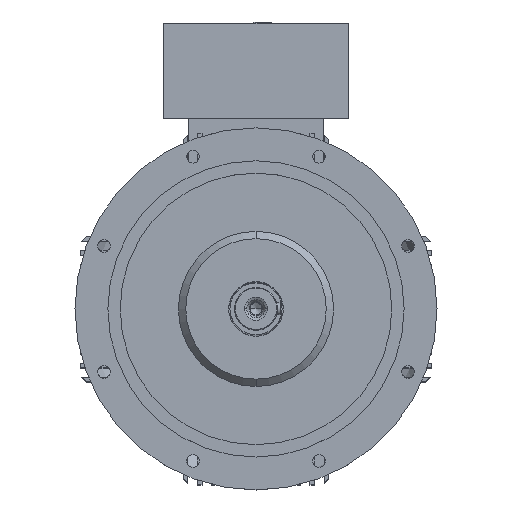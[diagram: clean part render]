
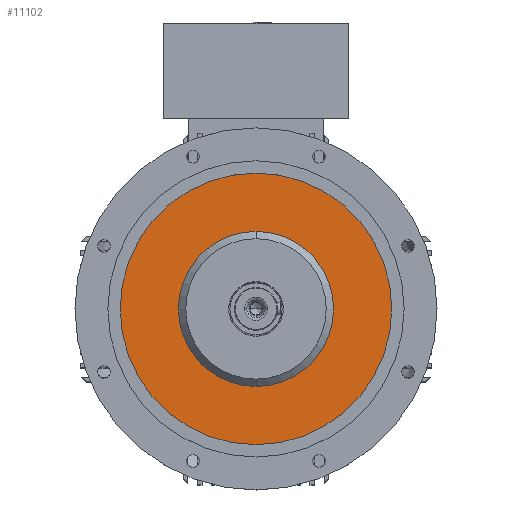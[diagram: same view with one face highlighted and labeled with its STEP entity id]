
A CAD part, top view. The second image highlights one B-rep face of the part: STEP entity #11102.
In plain terms, the highlighted planar face has unit normal (0, 0, 1).
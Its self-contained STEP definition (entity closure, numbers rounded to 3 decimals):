
#107 = EDGE_CURVE ( 'NONE', #16285, #25536, #23116, .T. ) ;
#1393 = CARTESIAN_POINT ( 'NONE',  ( 206.25, 0., 386.3 ) ) ;
#1539 = DIRECTION ( 'NONE',  ( 0., 1., 0. ) ) ;
#1649 = CIRCLE ( 'NONE', #19281, 206.25 ) ;
#1727 = CARTESIAN_POINT ( 'NONE',  ( 0., 0., 386.3 ) ) ;
#2282 = EDGE_LOOP ( 'NONE', ( #5928, #8026 ) ) ;
#2325 = DIRECTION ( 'NONE',  ( 0., 1., 0. ) ) ;
#3143 = CARTESIAN_POINT ( 'NONE',  ( 0., 206.25, 386.3 ) ) ;
#3975 = CIRCLE ( 'NONE', #6940, 206.25 ) ;
#4129 = AXIS2_PLACEMENT_3D ( 'NONE', #3143, #7828, #21538 ) ;
#5240 = CIRCLE ( 'NONE', #9366, 117.8 ) ;
#5523 = PLANE ( 'NONE',  #4129 ) ;
#5928 = ORIENTED_EDGE ( 'NONE', *, *, #14628, .T. ) ;
#6325 = EDGE_LOOP ( 'NONE', ( #20110, #20926 ) ) ;
#6940 = AXIS2_PLACEMENT_3D ( 'NONE', #19558, #17296, #21506 ) ;
#7828 = DIRECTION ( 'NONE',  ( 0., 0., 1. ) ) ;
#8026 = ORIENTED_EDGE ( 'NONE', *, *, #20124, .T. ) ;
#9366 = AXIS2_PLACEMENT_3D ( 'NONE', #1727, #21692, #1539 ) ;
#10326 = CARTESIAN_POINT ( 'NONE',  ( 0., -117.8, 386.3 ) ) ;
#10650 = VERTEX_POINT ( 'NONE', #1393 ) ;
#11102 = ADVANCED_FACE ( 'NONE', ( #16600, #27117 ), #5523, .T. ) ;
#12126 = VERTEX_POINT ( 'NONE', #26201 ) ;
#12896 = DIRECTION ( 'NONE',  ( -1., 0., 0. ) ) ;
#14628 = EDGE_CURVE ( 'NONE', #12126, #10650, #3975, .T. ) ;
#15081 = CARTESIAN_POINT ( 'NONE',  ( 0., 0., 386.3 ) ) ;
#15944 = AXIS2_PLACEMENT_3D ( 'NONE', #16122, #22670, #2325 ) ;
#16122 = CARTESIAN_POINT ( 'NONE',  ( 0., 0., 386.3 ) ) ;
#16285 = VERTEX_POINT ( 'NONE', #10326 ) ;
#16600 = FACE_OUTER_BOUND ( 'NONE', #2282, .T. ) ;
#17296 = DIRECTION ( 'NONE',  ( 0., 0., 1. ) ) ;
#19281 = AXIS2_PLACEMENT_3D ( 'NONE', #15081, #19588, #12896 ) ;
#19558 = CARTESIAN_POINT ( 'NONE',  ( 0., 0., 386.3 ) ) ;
#19588 = DIRECTION ( 'NONE',  ( 0., 0., 1. ) ) ;
#19740 = CARTESIAN_POINT ( 'NONE',  ( 0., 117.8, 386.3 ) ) ;
#20110 = ORIENTED_EDGE ( 'NONE', *, *, #28966, .T. ) ;
#20124 = EDGE_CURVE ( 'NONE', #10650, #12126, #1649, .T. ) ;
#20926 = ORIENTED_EDGE ( 'NONE', *, *, #107, .T. ) ;
#21506 = DIRECTION ( 'NONE',  ( -1., 0., 0. ) ) ;
#21538 = DIRECTION ( 'NONE',  ( 1., 0., 0. ) ) ;
#21692 = DIRECTION ( 'NONE',  ( 0., 0., -1. ) ) ;
#22670 = DIRECTION ( 'NONE',  ( 0., 0., -1. ) ) ;
#23116 = CIRCLE ( 'NONE', #15944, 117.8 ) ;
#25536 = VERTEX_POINT ( 'NONE', #19740 ) ;
#26201 = CARTESIAN_POINT ( 'NONE',  ( -206.25, 0., 386.3 ) ) ;
#27117 = FACE_BOUND ( 'NONE', #6325, .T. ) ;
#28966 = EDGE_CURVE ( 'NONE', #25536, #16285, #5240, .T. ) ;
